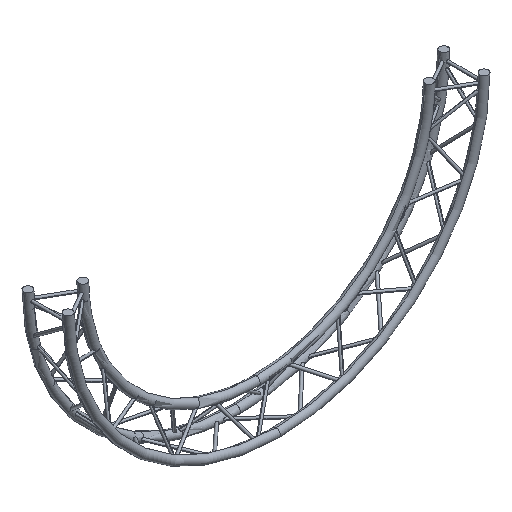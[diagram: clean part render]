
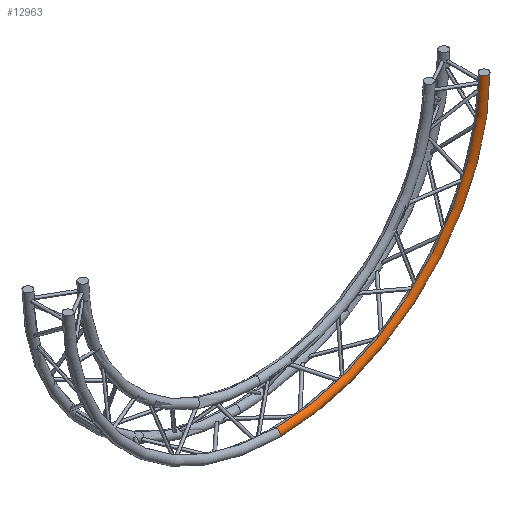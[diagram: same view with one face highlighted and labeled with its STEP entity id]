
A CAD part, isometric view. The second image highlights one B-rep face of the part: STEP entity #12963.
In plain terms, the highlighted toroidal (fillet/blend) face has major radius 1225 mm and minor radius 25 mm.
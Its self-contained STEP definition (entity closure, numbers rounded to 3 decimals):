
#5827 = CARTESIAN_POINT ( 'NONE',  ( 0., -118.5, -1200. ) ) ;
#5870 = DIRECTION ( 'NONE',  ( 0., -1., 0. ) ) ;
#5871 = CARTESIAN_POINT ( 'NONE',  ( 0., -118.5, 0. ) ) ;
#5872 = AXIS2_PLACEMENT_3D ( 'NONE', #5871, #5870, #5951 ) ;
#5873 = CIRCLE ( 'NONE', #5872, 1200. ) ;
#5874 = CARTESIAN_POINT ( 'NONE',  ( 1200., -118.5, 0. ) ) ;
#5949 = CARTESIAN_POINT ( 'NONE',  ( 0., -118.5, -1250. ) ) ;
#5951 = DIRECTION ( 'NONE',  ( 0., 0., -1. ) ) ;
#5952 = DIRECTION ( 'NONE',  ( 1., 0., 0. ) ) ;
#5953 = DIRECTION ( 'NONE',  ( 0., 0., 1. ) ) ;
#5954 = CARTESIAN_POINT ( 'NONE',  ( 1225., -118.5, 0. ) ) ;
#5955 = AXIS2_PLACEMENT_3D ( 'NONE', #5954, #5953, #5952 ) ;
#5956 = CIRCLE ( 'NONE', #5955, 25. ) ;
#5961 = DIRECTION ( 'NONE',  ( 0., 0., -1. ) ) ;
#5962 = DIRECTION ( 'NONE',  ( 0., -1., 0. ) ) ;
#5963 = AXIS2_PLACEMENT_3D ( 'NONE', #5970, #5962, #5961 ) ;
#5964 = CIRCLE ( 'NONE', #5963, 1250. ) ;
#5965 = DIRECTION ( 'NONE',  ( 0., 0., 1. ) ) ;
#5966 = DIRECTION ( 'NONE',  ( -1., 0., 0. ) ) ;
#5967 = CARTESIAN_POINT ( 'NONE',  ( 0., -118.5, -1225. ) ) ;
#5968 = AXIS2_PLACEMENT_3D ( 'NONE', #5967, #5966, #5965 ) ;
#5969 = CIRCLE ( 'NONE', #5968, 25. ) ;
#5970 = CARTESIAN_POINT ( 'NONE',  ( 0., -118.5, 0. ) ) ;
#5992 = CARTESIAN_POINT ( 'NONE',  ( 1250., -118.5, 0. ) ) ;
#6003 = DIRECTION ( 'NONE',  ( 0., 0., -1. ) ) ;
#6004 = DIRECTION ( 'NONE',  ( 0., -1., 0. ) ) ;
#6005 = AXIS2_PLACEMENT_3D ( 'NONE', #6007, #6004, #6003 ) ;
#6007 = CARTESIAN_POINT ( 'NONE',  ( 0., -118.5, 0. ) ) ;
#6008 = TOROIDAL_SURFACE ( 'NONE', #6005, 1225., 25. ) ;
#6009 = FACE_OUTER_BOUND ( 'NONE', #12933, .T. ) ;
#12933 = EDGE_LOOP ( 'NONE', ( #12956, #12967, #12949, #12961 ) ) ;
#12934 = VERTEX_POINT ( 'NONE', #5827 ) ;
#12948 = VERTEX_POINT ( 'NONE', #5874 ) ;
#12949 = ORIENTED_EDGE ( 'NONE', *, *, #12960, .F. ) ;
#12950 = EDGE_CURVE ( 'NONE', #12934, #12948, #5873, .T. ) ;
#12952 = VERTEX_POINT ( 'NONE', #5949 ) ;
#12956 = ORIENTED_EDGE ( 'NONE', *, *, #12957, .F. ) ;
#12957 = EDGE_CURVE ( 'NONE', #12952, #12934, #5969, .T. ) ;
#12958 = EDGE_CURVE ( 'NONE', #12952, #12969, #5964, .T. ) ;
#12960 = EDGE_CURVE ( 'NONE', #12948, #12969, #5956, .T. ) ;
#12961 = ORIENTED_EDGE ( 'NONE', *, *, #12950, .F. ) ;
#12963 = ADVANCED_FACE ( 'NONE', ( #6009 ), #6008, .T. ) ;
#12967 = ORIENTED_EDGE ( 'NONE', *, *, #12958, .T. ) ;
#12969 = VERTEX_POINT ( 'NONE', #5992 ) ;
